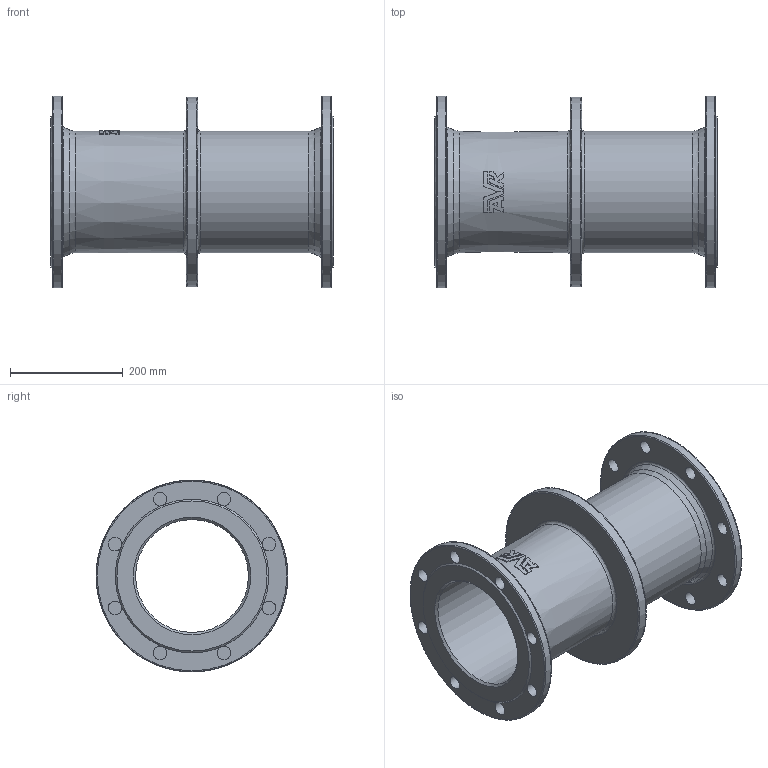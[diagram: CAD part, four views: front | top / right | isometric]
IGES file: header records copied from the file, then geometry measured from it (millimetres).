
Start section: SolidWorks IGES file using analytic representation for surfaces
Global section: file name: \\avksan2\techshare\PBM outline export from Enovia\O_712_6010_DN200_0_AA0.igs; native system: SolidWorks 2012; preprocessor: SolidWorks 2012; author: pbm; date: 190709.113218; units: millimetre
Bounding box: 500 x 340 x 340 mm (x, y, z)
Surface area: 988335.7 mm2 (no closed solid volume)
Topology: 0 solids, 0 shells, 90 faces, 546 edges, 496 vertices
Faces by surface type: revolution 45, bspline 45
